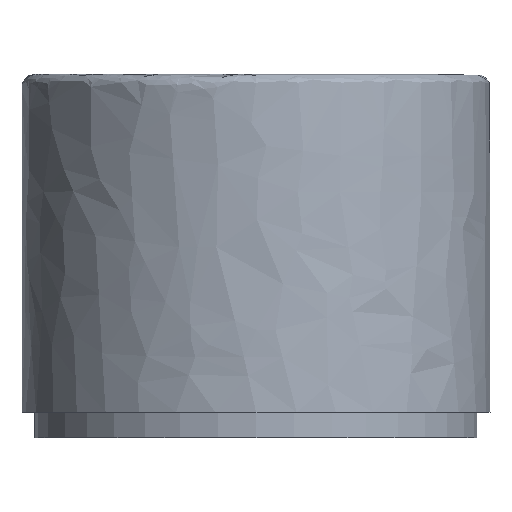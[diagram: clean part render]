
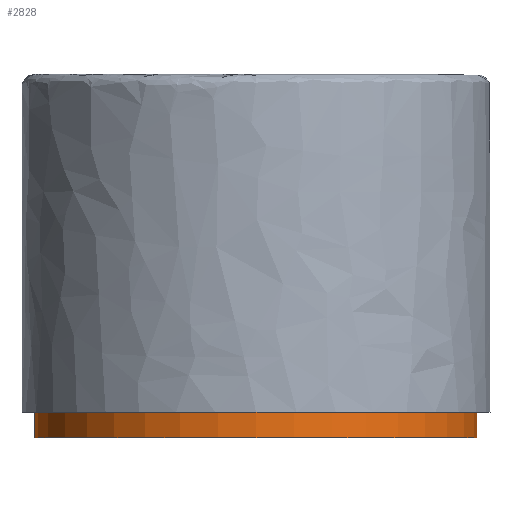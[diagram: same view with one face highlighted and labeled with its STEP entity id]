
A CAD part, front view. The second image highlights one B-rep face of the part: STEP entity #2828.
In plain terms, the highlighted cylindrical face has radius 85 mm (diameter 170 mm), a full revolution.
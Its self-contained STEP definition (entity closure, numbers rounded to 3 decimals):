
#32=CYLINDRICAL_SURFACE('',#3112,85.);
#207=LINE('',#6437,#354);
#354=VECTOR('',#3631,85.);
#568=FACE_OUTER_BOUND('',#749,.T.);
#749=EDGE_LOOP('',(#2317,#2318,#2319,#2320,#2321,#2322));
#965=CIRCLE('',#3109,85.);
#966=CIRCLE('',#3110,85.);
#968=CIRCLE('',#3113,85.);
#969=CIRCLE('',#3114,85.);
#1279=VERTEX_POINT('',#6429);
#1280=VERTEX_POINT('',#6430);
#1282=VERTEX_POINT('',#6436);
#1283=VERTEX_POINT('',#6438);
#1648=EDGE_CURVE('',#1279,#1280,#965,.T.);
#1649=EDGE_CURVE('',#1280,#1279,#966,.T.);
#1651=EDGE_CURVE('',#1280,#1282,#207,.T.);
#1652=EDGE_CURVE('',#1283,#1282,#968,.T.);
#1653=EDGE_CURVE('',#1282,#1283,#969,.T.);
#2317=ORIENTED_EDGE('',*,*,#1648,.F.);
#2318=ORIENTED_EDGE('',*,*,#1649,.F.);
#2319=ORIENTED_EDGE('',*,*,#1651,.T.);
#2320=ORIENTED_EDGE('',*,*,#1652,.F.);
#2321=ORIENTED_EDGE('',*,*,#1653,.F.);
#2322=ORIENTED_EDGE('',*,*,#1651,.F.);
#2828=ADVANCED_FACE('',(#568),#32,.T.);
#3109=AXIS2_PLACEMENT_3D('',#6431,#3623,#3624);
#3110=AXIS2_PLACEMENT_3D('',#6432,#3625,#3626);
#3112=AXIS2_PLACEMENT_3D('',#6435,#3629,#3630);
#3113=AXIS2_PLACEMENT_3D('',#6439,#3632,#3633);
#3114=AXIS2_PLACEMENT_3D('',#6440,#3634,#3635);
#3623=DIRECTION('center_axis',(0.,0.,1.));
#3624=DIRECTION('ref_axis',(1.,0.,0.));
#3625=DIRECTION('center_axis',(0.,0.,1.));
#3626=DIRECTION('ref_axis',(1.,0.,0.));
#3629=DIRECTION('center_axis',(0.,0.,1.));
#3630=DIRECTION('ref_axis',(1.,0.,0.));
#3631=DIRECTION('',(0.,0.,-1.));
#3632=DIRECTION('center_axis',(0.,0.,-1.));
#3633=DIRECTION('ref_axis',(1.,0.,0.));
#3634=DIRECTION('center_axis',(0.,0.,-1.));
#3635=DIRECTION('ref_axis',(1.,0.,0.));
#6429=CARTESIAN_POINT('',(-2597.104,-741.413,31.1));
#6430=CARTESIAN_POINT('',(-2767.104,-741.413,31.1));
#6431=CARTESIAN_POINT('Origin',(-2682.104,-741.413,31.1));
#6432=CARTESIAN_POINT('Origin',(-2682.104,-741.413,31.1));
#6435=CARTESIAN_POINT('Origin',(-2682.104,-741.413,21.6));
#6436=CARTESIAN_POINT('',(-2767.104,-741.413,12.1));
#6437=CARTESIAN_POINT('',(-2767.104,-741.413,21.6));
#6438=CARTESIAN_POINT('',(-2597.104,-741.413,12.1));
#6439=CARTESIAN_POINT('Origin',(-2682.104,-741.413,12.1));
#6440=CARTESIAN_POINT('Origin',(-2682.104,-741.413,12.1));
